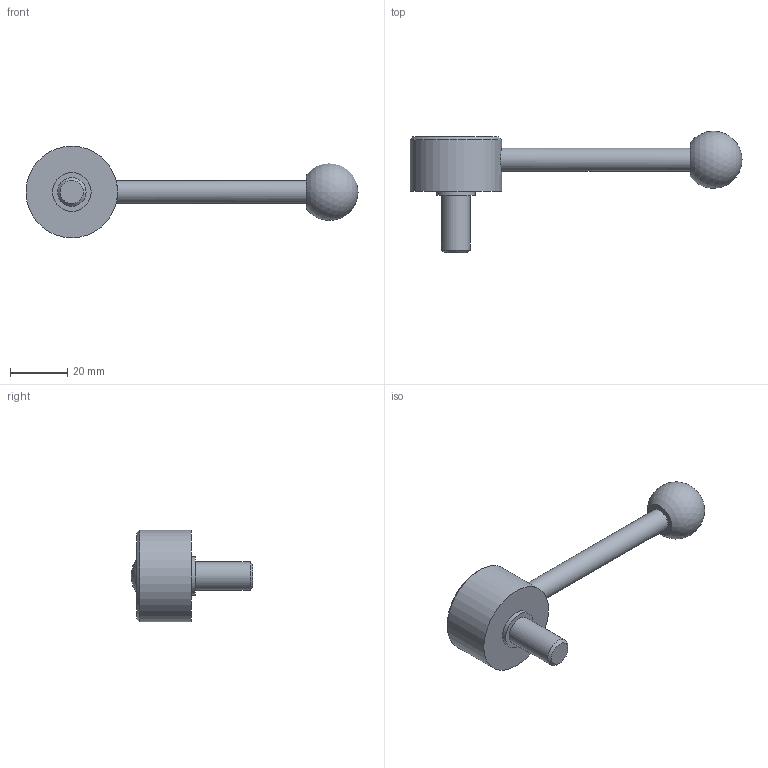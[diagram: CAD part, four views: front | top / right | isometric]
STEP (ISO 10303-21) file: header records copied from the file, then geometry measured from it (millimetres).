
FILE_DESCRIPTION( ( 'STEP AP203' ), '1' );
FILE_NAME( 'C:/Temp/Ganter_Step_05_03_2020/data/2_1/gn_125/gn_125_ms/gn_125_ms_d/Flat Adjustable Lever GN 125-32-M10-20-D.stp', '2020-03-05T11:00:45', ( 'License CC BY-ND 4.0' ), ( 'CADENAS' ), ' ', 'PARTsolutions', ' ' );
FILE_SCHEMA( ( 'CONFIG_CONTROL_DESIGN' ) );
Length unit declared in the file: millimetre
Products named in the file (1): _Flat Adjustable Lever GN 125-32-M10-20-D
Bounding box: 116 x 42.43 x 32 mm (x, y, z)
Volume: 24305 mm3; surface area: 6957.8 mm2
Topology: 1 solids, 1 shells, 14 faces, 23 edges, 15 vertices
Faces by surface type: plane 6, cylinder 5, cone 2, sphere 1
Full cylindrical faces by diameter (mm): 8 x1, 10 x1, 13.5 x1, 22 x1, 32 x1
Entity records: 384 total; most frequent: CARTESIAN_POINT 107, DIRECTION 54, AXIS2_PLACEMENT_3D 27, EDGE_LOOP 26, ORIENTED_EDGE 26, FACE_OUTER_BOUND 19, ADVANCED_FACE 14, VERTEX_POINT 14
